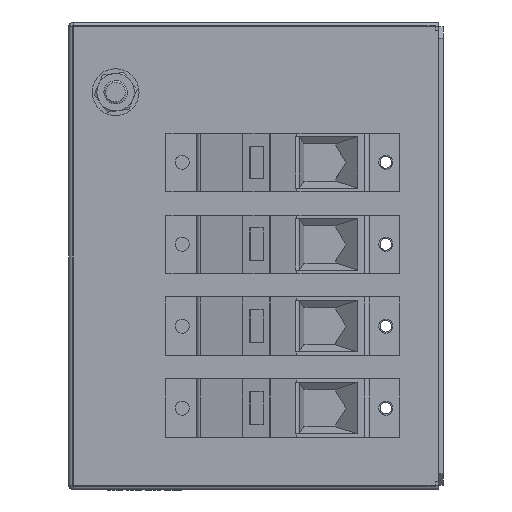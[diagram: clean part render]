
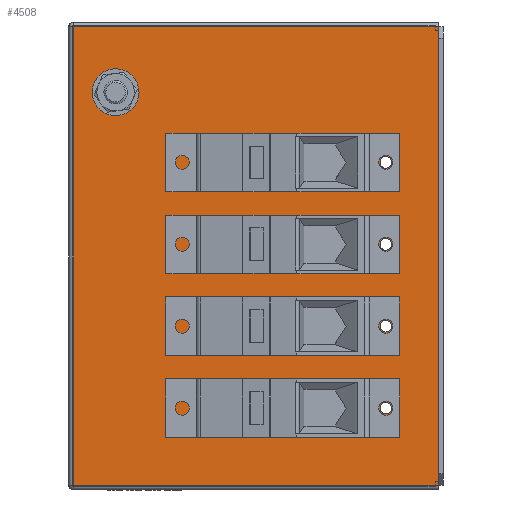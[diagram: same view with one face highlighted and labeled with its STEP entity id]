
A CAD part, left-side view. The second image highlights one B-rep face of the part: STEP entity #4508.
In plain terms, the highlighted planar face has unit normal (-1, 0, 0).
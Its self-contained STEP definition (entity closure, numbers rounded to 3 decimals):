
#34 = ORIENTED_EDGE ( 'NONE', *, *, #21804, .T. ) ;
#215 = CARTESIAN_POINT ( 'NONE',  ( 27., 140., 162.75 ) ) ;
#410 = CARTESIAN_POINT ( 'NONE',  ( 27., 24.5, 138. ) ) ;
#704 = VERTEX_POINT ( 'NONE', #5179 ) ;
#1432 = DIRECTION ( 'NONE',  ( 0., 0., -1. ) ) ;
#1647 = DIRECTION ( 'NONE',  ( 0., 0., -1. ) ) ;
#1868 = CIRCLE ( 'NONE', #33882, 2.5 ) ;
#1875 = ORIENTED_EDGE ( 'NONE', *, *, #23398, .T. ) ;
#1950 = LINE ( 'NONE', #33315, #30942 ) ;
#1986 = CARTESIAN_POINT ( 'NONE',  ( 27., 158., 0. ) ) ;
#2183 = DIRECTION ( 'NONE',  ( 1., 0., 0. ) ) ;
#2374 = EDGE_LOOP ( 'NONE', ( #31389, #41190 ) ) ;
#2569 = VERTEX_POINT ( 'NONE', #22577 ) ;
#2965 = EDGE_LOOP ( 'NONE', ( #14259, #4064 ) ) ;
#2997 = FACE_OUTER_BOUND ( 'NONE', #28837, .T. ) ;
#3264 = CARTESIAN_POINT ( 'NONE',  ( 27., 158., 196. ) ) ;
#3693 = DIRECTION ( 'NONE',  ( 0., 1., 0. ) ) ;
#4064 = ORIENTED_EDGE ( 'NONE', *, *, #22411, .T. ) ;
#4068 = DIRECTION ( 'NONE',  ( 0., 0., -1. ) ) ;
#4123 = DIRECTION ( 'NONE',  ( 0., 0., -1. ) ) ;
#4149 = CARTESIAN_POINT ( 'NONE',  ( 27., 24.5, 140.5 ) ) ;
#4508 = ADVANCED_FACE ( 'NONE', ( #23447, #24460, #15018, #12528, #9025, #2997 ), #37265, .F. ) ;
#5179 = CARTESIAN_POINT ( 'NONE',  ( 27., 24.5, 65.5 ) ) ;
#5609 = VERTEX_POINT ( 'NONE', #215 ) ;
#5612 = AXIS2_PLACEMENT_3D ( 'NONE', #27857, #2183, #24887 ) ;
#5789 = EDGE_CURVE ( 'NONE', #704, #19313, #21336, .T. ) ;
#6221 = CIRCLE ( 'NONE', #11235, 2.5 ) ;
#6222 = DIRECTION ( 'NONE',  ( 1., 0., 0. ) ) ;
#6284 = CARTESIAN_POINT ( 'NONE',  ( 27., 2., -2. ) ) ;
#6596 = AXIS2_PLACEMENT_3D ( 'NONE', #24920, #18789, #9590 ) ;
#6924 = CARTESIAN_POINT ( 'NONE',  ( 27., 24.5, 33. ) ) ;
#7926 = DIRECTION ( 'NONE',  ( 1., 0., 0. ) ) ;
#8688 = ORIENTED_EDGE ( 'NONE', *, *, #19890, .T. ) ;
#9025 = FACE_BOUND ( 'NONE', #2374, .T. ) ;
#9590 = DIRECTION ( 'NONE',  ( 0., 0., -1. ) ) ;
#10017 = DIRECTION ( 'NONE',  ( 1., 0., 0. ) ) ;
#10022 = DIRECTION ( 'NONE',  ( 1., 0., 0. ) ) ;
#10032 = CARTESIAN_POINT ( 'NONE',  ( 27., 24.5, 105.5 ) ) ;
#10490 = VERTEX_POINT ( 'NONE', #25815 ) ;
#11065 = DIRECTION ( 'NONE',  ( 1., 0., 0. ) ) ;
#11235 = AXIS2_PLACEMENT_3D ( 'NONE', #31108, #18079, #15037 ) ;
#11292 = EDGE_CURVE ( 'NONE', #14379, #39017, #6221, .T. ) ;
#11510 = VERTEX_POINT ( 'NONE', #18887 ) ;
#12298 = VERTEX_POINT ( 'NONE', #33569 ) ;
#12313 = EDGE_CURVE ( 'NONE', #5609, #14506, #40204, .T. ) ;
#12528 = FACE_BOUND ( 'NONE', #14502, .T. ) ;
#12680 = EDGE_CURVE ( 'NONE', #10490, #39581, #30607, .T. ) ;
#12993 = DIRECTION ( 'NONE',  ( 1., 0., 0. ) ) ;
#13957 = EDGE_LOOP ( 'NONE', ( #34, #23001 ) ) ;
#14259 = ORIENTED_EDGE ( 'NONE', *, *, #5789, .T. ) ;
#14379 = VERTEX_POINT ( 'NONE', #10032 ) ;
#14502 = EDGE_LOOP ( 'NONE', ( #32584, #34388 ) ) ;
#14506 = VERTEX_POINT ( 'NONE', #39119 ) ;
#14771 = CIRCLE ( 'NONE', #35095, 2.5 ) ;
#14940 = ORIENTED_EDGE ( 'NONE', *, *, #11292, .T. ) ;
#15018 = FACE_BOUND ( 'NONE', #23757, .T. ) ;
#15037 = DIRECTION ( 'NONE',  ( 0., 0., -1. ) ) ;
#15190 = CIRCLE ( 'NONE', #17564, 2.5 ) ;
#15998 = DIRECTION ( 'NONE',  ( 0., 0., -1. ) ) ;
#16053 = CARTESIAN_POINT ( 'NONE',  ( 27., 24.5, 33. ) ) ;
#16356 = LINE ( 'NONE', #26823, #31374 ) ;
#16526 = ORIENTED_EDGE ( 'NONE', *, *, #26653, .T. ) ;
#17564 = AXIS2_PLACEMENT_3D ( 'NONE', #29003, #6222, #38130 ) ;
#18079 = DIRECTION ( 'NONE',  ( 1., 0., 0. ) ) ;
#18712 = AXIS2_PLACEMENT_3D ( 'NONE', #410, #10022, #4123 ) ;
#18789 = DIRECTION ( 'NONE',  ( 1., 0., 0. ) ) ;
#18887 = CARTESIAN_POINT ( 'NONE',  ( 27., 2., 196. ) ) ;
#19140 = EDGE_CURVE ( 'NONE', #14506, #5609, #36950, .T. ) ;
#19313 = VERTEX_POINT ( 'NONE', #35424 ) ;
#19835 = AXIS2_PLACEMENT_3D ( 'NONE', #22645, #25478, #15998 ) ;
#19890 = EDGE_CURVE ( 'NONE', #40907, #29745, #1950, .T. ) ;
#20168 = CARTESIAN_POINT ( 'NONE',  ( 27., 24.5, 35.5 ) ) ;
#20498 = EDGE_CURVE ( 'NONE', #29745, #12298, #16356, .T. ) ;
#20788 = DIRECTION ( 'NONE',  ( 0., 0., -1. ) ) ;
#20960 = CIRCLE ( 'NONE', #19835, 2.5 ) ;
#21336 = CIRCLE ( 'NONE', #27591, 2.5 ) ;
#21804 = EDGE_CURVE ( 'NONE', #2569, #25283, #14771, .T. ) ;
#22411 = EDGE_CURVE ( 'NONE', #19313, #704, #20960, .T. ) ;
#22572 = ORIENTED_EDGE ( 'NONE', *, *, #20498, .T. ) ;
#22577 = CARTESIAN_POINT ( 'NONE',  ( 27., 24.5, 30.5 ) ) ;
#22645 = CARTESIAN_POINT ( 'NONE',  ( 27., 24.5, 68. ) ) ;
#22893 = AXIS2_PLACEMENT_3D ( 'NONE', #6924, #10017, #32527 ) ;
#23001 = ORIENTED_EDGE ( 'NONE', *, *, #28573, .T. ) ;
#23398 = EDGE_CURVE ( 'NONE', #11510, #40907, #38391, .T. ) ;
#23447 = FACE_BOUND ( 'NONE', #13957, .T. ) ;
#23757 = EDGE_LOOP ( 'NONE', ( #16526, #14940 ) ) ;
#23987 = CARTESIAN_POINT ( 'NONE',  ( 27., 140., 168. ) ) ;
#24460 = FACE_BOUND ( 'NONE', #2965, .T. ) ;
#24821 = EDGE_CURVE ( 'NONE', #39581, #10490, #1868, .T. ) ;
#24887 = DIRECTION ( 'NONE',  ( 0., 0., -1. ) ) ;
#24920 = CARTESIAN_POINT ( 'NONE',  ( 27., 140., 168. ) ) ;
#25283 = VERTEX_POINT ( 'NONE', #20168 ) ;
#25478 = DIRECTION ( 'NONE',  ( 1., 0., 0. ) ) ;
#25815 = CARTESIAN_POINT ( 'NONE',  ( 27., 24.5, 135.5 ) ) ;
#26653 = EDGE_CURVE ( 'NONE', #39017, #14379, #15190, .T. ) ;
#26823 = CARTESIAN_POINT ( 'NONE',  ( 27., 160., 0. ) ) ;
#27524 = CARTESIAN_POINT ( 'NONE',  ( 27., 24.5, 100.5 ) ) ;
#27591 = AXIS2_PLACEMENT_3D ( 'NONE', #36373, #36519, #1432 ) ;
#27857 = CARTESIAN_POINT ( 'NONE',  ( 27., 160., -2. ) ) ;
#28573 = EDGE_CURVE ( 'NONE', #25283, #2569, #34061, .T. ) ;
#28837 = EDGE_LOOP ( 'NONE', ( #8688, #22572, #39387, #1875 ) ) ;
#29003 = CARTESIAN_POINT ( 'NONE',  ( 27., 24.5, 103. ) ) ;
#29745 = VERTEX_POINT ( 'NONE', #1986 ) ;
#30607 = CIRCLE ( 'NONE', #18712, 2.5 ) ;
#30942 = VECTOR ( 'NONE', #4068, 1000. ) ;
#31108 = CARTESIAN_POINT ( 'NONE',  ( 27., 24.5, 103. ) ) ;
#31374 = VECTOR ( 'NONE', #38296, 1000. ) ;
#31389 = ORIENTED_EDGE ( 'NONE', *, *, #12680, .T. ) ;
#31592 = DIRECTION ( 'NONE',  ( 0., 0., -1. ) ) ;
#32527 = DIRECTION ( 'NONE',  ( 0., 0., -1. ) ) ;
#32584 = ORIENTED_EDGE ( 'NONE', *, *, #12313, .T. ) ;
#33247 = CARTESIAN_POINT ( 'NONE',  ( 27., 24.5, 138. ) ) ;
#33315 = CARTESIAN_POINT ( 'NONE',  ( 27., 158., -2. ) ) ;
#33514 = VECTOR ( 'NONE', #38447, 1000. ) ;
#33569 = CARTESIAN_POINT ( 'NONE',  ( 27., 2., 0. ) ) ;
#33882 = AXIS2_PLACEMENT_3D ( 'NONE', #33247, #7926, #1647 ) ;
#34016 = AXIS2_PLACEMENT_3D ( 'NONE', #23987, #11065, #20788 ) ;
#34061 = CIRCLE ( 'NONE', #22893, 2.5 ) ;
#34388 = ORIENTED_EDGE ( 'NONE', *, *, #19140, .T. ) ;
#34532 = EDGE_CURVE ( 'NONE', #12298, #11510, #35971, .T. ) ;
#35095 = AXIS2_PLACEMENT_3D ( 'NONE', #16053, #12993, #31592 ) ;
#35424 = CARTESIAN_POINT ( 'NONE',  ( 27., 24.5, 70.5 ) ) ;
#35971 = LINE ( 'NONE', #6284, #33514 ) ;
#36373 = CARTESIAN_POINT ( 'NONE',  ( 27., 24.5, 68. ) ) ;
#36519 = DIRECTION ( 'NONE',  ( 1., 0., 0. ) ) ;
#36950 = CIRCLE ( 'NONE', #6596, 5.25 ) ;
#37265 = PLANE ( 'NONE',  #5612 ) ;
#38130 = DIRECTION ( 'NONE',  ( 0., 0., -1. ) ) ;
#38296 = DIRECTION ( 'NONE',  ( 0., -1., 0. ) ) ;
#38391 = LINE ( 'NONE', #38941, #40413 ) ;
#38447 = DIRECTION ( 'NONE',  ( 0., 0., 1. ) ) ;
#38941 = CARTESIAN_POINT ( 'NONE',  ( 27., 160., 196. ) ) ;
#39017 = VERTEX_POINT ( 'NONE', #27524 ) ;
#39119 = CARTESIAN_POINT ( 'NONE',  ( 27., 140., 173.25 ) ) ;
#39387 = ORIENTED_EDGE ( 'NONE', *, *, #34532, .T. ) ;
#39581 = VERTEX_POINT ( 'NONE', #4149 ) ;
#40204 = CIRCLE ( 'NONE', #34016, 5.25 ) ;
#40413 = VECTOR ( 'NONE', #3693, 1000. ) ;
#40907 = VERTEX_POINT ( 'NONE', #3264 ) ;
#41190 = ORIENTED_EDGE ( 'NONE', *, *, #24821, .T. ) ;
